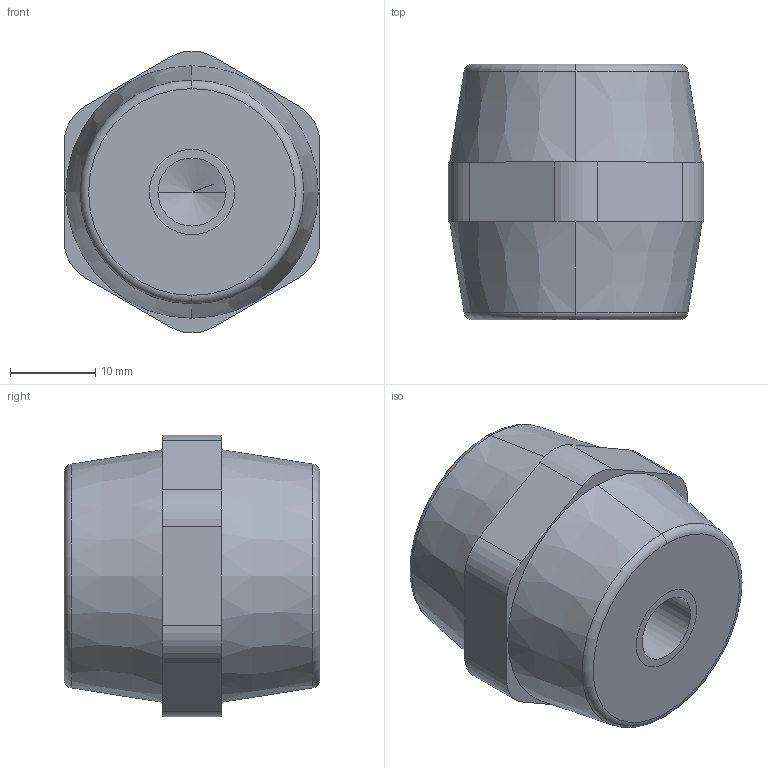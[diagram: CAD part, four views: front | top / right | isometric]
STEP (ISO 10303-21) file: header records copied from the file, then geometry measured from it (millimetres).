
FILE_DESCRIPTION (( 'STEP AP203' ), '1' );
FILE_NAME ('Isolatore 3056 30X30-M8.STEP', '2024-10-28T22:49:28', ( '' ), ( '' ), 'SwSTEP 2.0', 'SolidWorks 2020', '' );
FILE_SCHEMA (( 'CONFIG_CONTROL_DESIGN' ));
Length unit declared in the file: millimetre
Products named in the file (1): Isolatore 3056 30X30-M8
Bounding box: 30 x 30 x 33.09 mm (x, y, z)
Volume: 18457.5 mm3; surface area: 6661.2 mm2
Topology: 3 solids, 3 shells, 75 faces, 167 edges, 100 vertices
Faces by surface type: cylinder 35, plane 20, cone 16, torus 4
Entity records: 2088 total; most frequent: DIRECTION 393, CARTESIAN_POINT 331, ORIENTED_EDGE 310, AXIS2_PLACEMENT_3D 162, EDGE_CURVE 155, VERTEX_POINT 100, EDGE_LOOP 89, CIRCLE 86
